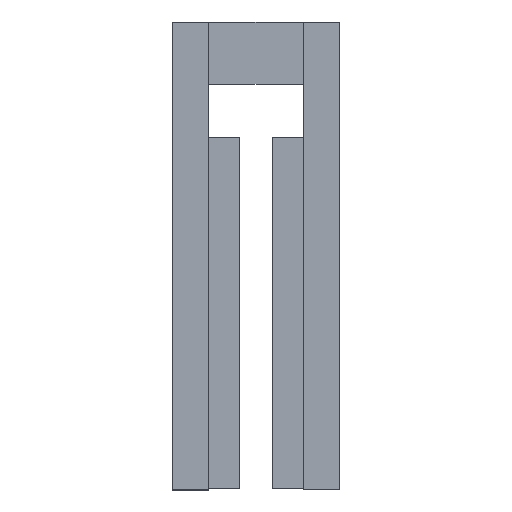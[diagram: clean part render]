
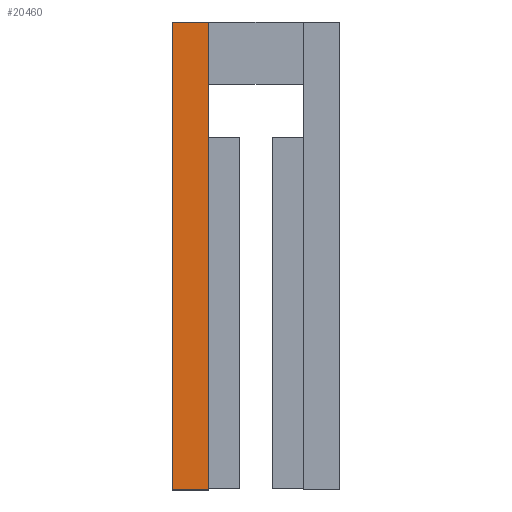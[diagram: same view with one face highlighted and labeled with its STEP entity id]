
A CAD part, front view. The second image highlights one B-rep face of the part: STEP entity #20460.
In plain terms, the highlighted planar face has unit normal (0, -1, 0).
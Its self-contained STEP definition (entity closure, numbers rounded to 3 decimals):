
#756 = CARTESIAN_POINT ( 'NONE',  ( 87.656, -224.49, 155.087 ) ) ;
#1079 = CARTESIAN_POINT ( 'NONE',  ( 87.656, -224.49, 179.087 ) ) ;
#1249 = VERTEX_POINT ( 'NONE', #4751 ) ;
#1488 = VERTEX_POINT ( 'NONE', #7115 ) ;
#1546 = CARTESIAN_POINT ( 'NONE',  ( 87.656, -224.49, 179.087 ) ) ;
#4547 = CARTESIAN_POINT ( 'NONE',  ( 87.656, -224.49, 179.087 ) ) ;
#4751 = CARTESIAN_POINT ( 'NONE',  ( 87.656, -224.49, 179.087 ) ) ;
#4993 = LINE ( 'NONE', #10113, #18479 ) ;
#5654 = DIRECTION ( 'NONE',  ( 0., 0., 1. ) ) ;
#6301 = EDGE_CURVE ( 'Defeatured_0_5+Defeatured_0_4+Defeatured_0_3+Defeatured_0_1', #30730, #10464, #4993, .T. ) ;
#7115 = CARTESIAN_POINT ( 'NONE',  ( 87.656, -224.49, -0.913 ) ) ;
#8250 = CARTESIAN_POINT ( 'NONE',  ( 87.656, -224.49, -0.913 ) ) ;
#9392 = PLANE ( 'NONE',  #32790 ) ;
#10113 = CARTESIAN_POINT ( 'NONE',  ( 73.656, -224.49, 179.087 ) ) ;
#10464 = VERTEX_POINT ( 'NONE', #29816 ) ;
#12539 = VECTOR ( 'NONE', #13195, 1000. ) ;
#13195 = DIRECTION ( 'NONE',  ( -1., 0., 0. ) ) ;
#13357 = LINE ( 'NONE', #8250, #12539 ) ;
#17229 = LINE ( 'NONE', #1079, #20190 ) ;
#18023 = ORIENTED_EDGE ( 'NONE', *, *, #20570, .T. ) ;
#18479 = VECTOR ( 'NONE', #5654, 1000. ) ;
#18538 = EDGE_CURVE ( 'Defeatured_0_3+Defeatured_0_4+Defeatured_0_0+Defeatured_0_5', #1488, #30730, #13357, .T. ) ;
#19764 = LINE ( 'NONE', #30192, #30594 ) ;
#19954 = EDGE_CURVE ( 'Defeatured_0_4+Defeatured_0_1+Defeatured_0_18+Defeatured_0_5', #1249, #10464, #17229, .T. ) ;
#20190 = VECTOR ( 'NONE', #24595, 1000. ) ;
#20460 = ADVANCED_FACE ( 'Defeatured_0_4', ( #24214 ), #9392, .T. ) ;
#20570 = EDGE_CURVE ( 'Defeatured_0_4+Defeatured_0_18+Defeatured_0_0+Defeatured_0_1', #26655, #1249, #19764, .T. ) ;
#20980 = ORIENTED_EDGE ( 'NONE', *, *, #19954, .T. ) ;
#21985 = CARTESIAN_POINT ( 'NONE',  ( 73.656, -224.49, -0.913 ) ) ;
#22449 = DIRECTION ( 'NONE',  ( 0., 0., 1. ) ) ;
#22612 = LINE ( 'NONE', #4547, #26771 ) ;
#22664 = DIRECTION ( 'NONE',  ( 0., 0., 1. ) ) ;
#24214 = FACE_OUTER_BOUND ( 'NONE', #30226, .T. ) ;
#24595 = DIRECTION ( 'NONE',  ( -1., 0., 0. ) ) ;
#26398 = ORIENTED_EDGE ( 'NONE', *, *, #6301, .F. ) ;
#26655 = VERTEX_POINT ( 'NONE', #756 ) ;
#26771 = VECTOR ( 'NONE', #22449, 1000. ) ;
#29285 = ORIENTED_EDGE ( 'NONE', *, *, #18538, .F. ) ;
#29326 = DIRECTION ( 'NONE',  ( -1., 0., 0. ) ) ;
#29816 = CARTESIAN_POINT ( 'NONE',  ( 73.656, -224.49, 179.087 ) ) ;
#30192 = CARTESIAN_POINT ( 'NONE',  ( 87.656, -224.49, 179.087 ) ) ;
#30226 = EDGE_LOOP ( 'NONE', ( #26398, #29285, #32731, #18023, #20980 ) ) ;
#30594 = VECTOR ( 'NONE', #22664, 1000. ) ;
#30730 = VERTEX_POINT ( 'NONE', #21985 ) ;
#32731 = ORIENTED_EDGE ( 'NONE', *, *, #33352, .T. ) ;
#32755 = DIRECTION ( 'NONE',  ( 0., -1., 0. ) ) ;
#32790 = AXIS2_PLACEMENT_3D ( 'NONE', #1546, #32755, #29326 ) ;
#33352 = EDGE_CURVE ( 'Defeatured_0_4+Defeatured_0_0+Defeatured_0_3+Defeatured_0_18', #1488, #26655, #22612, .T. ) ;
